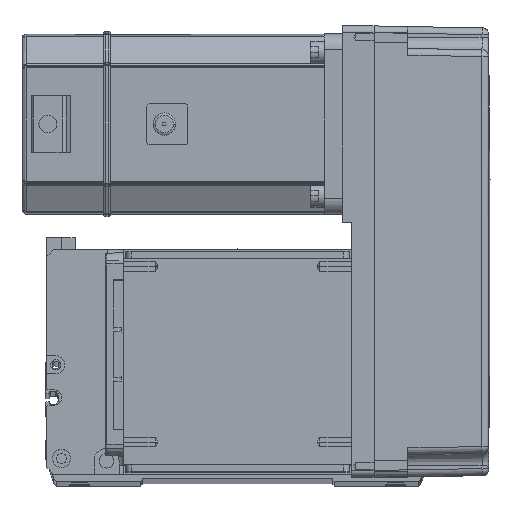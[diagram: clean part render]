
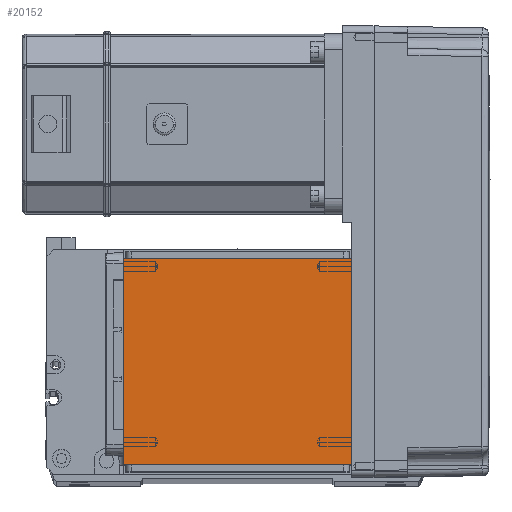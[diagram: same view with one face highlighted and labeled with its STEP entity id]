
A CAD part, top view. The second image highlights one B-rep face of the part: STEP entity #20152.
In plain terms, the highlighted planar face has unit normal (0, 0, 1).
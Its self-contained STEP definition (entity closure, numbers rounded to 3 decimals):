
#2853 = FACE_OUTER_BOUND ( 'NONE', #10176, .T. ) ;
#4392 = CARTESIAN_POINT ( 'NONE',  ( -50.5, 20., 115. ) ) ;
#4782 = CARTESIAN_POINT ( 'NONE',  ( 50.5, 122., 115. ) ) ;
#5210 = VECTOR ( 'NONE', #36628, 1000. ) ;
#5652 = LINE ( 'NONE', #24479, #27054 ) ;
#8078 = ORIENTED_EDGE ( 'NONE', *, *, #22550, .T. ) ;
#10176 = EDGE_LOOP ( 'NONE', ( #53035, #8078, #53452, #16691 ) ) ;
#13921 = VERTEX_POINT ( 'NONE', #35036 ) ;
#16543 = PLANE ( 'NONE',  #34428 ) ;
#16691 = ORIENTED_EDGE ( 'NONE', *, *, #51900, .T. ) ;
#17219 = VECTOR ( 'NONE', #41638, 1000. ) ;
#20081 = LINE ( 'NONE', #55241, #17219 ) ;
#20106 = VERTEX_POINT ( 'NONE', #56235 ) ;
#20152 = ADVANCED_FACE ( 'NONE', ( #2853 ), #16543, .T. ) ;
#21135 = CARTESIAN_POINT ( 'NONE',  ( 0., 0., 115. ) ) ;
#22550 = EDGE_CURVE ( 'NONE', #20106, #50198, #20081, .T. ) ;
#24479 = CARTESIAN_POINT ( 'NONE',  ( -70.004, 20., 115. ) ) ;
#25053 = DIRECTION ( 'NONE',  ( -1., 0., 0. ) ) ;
#25642 = EDGE_CURVE ( 'NONE', #20106, #13921, #53163, .T. ) ;
#27054 = VECTOR ( 'NONE', #25053, 1000. ) ;
#34428 = AXIS2_PLACEMENT_3D ( 'NONE', #21135, #44006, #39237 ) ;
#35036 = CARTESIAN_POINT ( 'NONE',  ( 50.5, 111.5, 115. ) ) ;
#36628 = DIRECTION ( 'NONE',  ( 0., 1., 0. ) ) ;
#37092 = DIRECTION ( 'NONE',  ( 1., 0., 0. ) ) ;
#39237 = DIRECTION ( 'NONE',  ( 1., 0., 0. ) ) ;
#41638 = DIRECTION ( 'NONE',  ( 0., -1., 0. ) ) ;
#44006 = DIRECTION ( 'NONE',  ( 0., 0., 1. ) ) ;
#46071 = VECTOR ( 'NONE', #37092, 1000. ) ;
#46371 = CARTESIAN_POINT ( 'NONE',  ( -70.004, 111.5, 115. ) ) ;
#46744 = EDGE_CURVE ( 'NONE', #47375, #50198, #5652, .T. ) ;
#47375 = VERTEX_POINT ( 'NONE', #49328 ) ;
#48552 = LINE ( 'NONE', #4782, #5210 ) ;
#49328 = CARTESIAN_POINT ( 'NONE',  ( 50.5, 20., 115. ) ) ;
#50198 = VERTEX_POINT ( 'NONE', #4392 ) ;
#51900 = EDGE_CURVE ( 'NONE', #47375, #13921, #48552, .T. ) ;
#53035 = ORIENTED_EDGE ( 'NONE', *, *, #25642, .F. ) ;
#53163 = LINE ( 'NONE', #46371, #46071 ) ;
#53452 = ORIENTED_EDGE ( 'NONE', *, *, #46744, .F. ) ;
#55241 = CARTESIAN_POINT ( 'NONE',  ( -50.5, 122., 115. ) ) ;
#56235 = CARTESIAN_POINT ( 'NONE',  ( -50.5, 111.5, 115. ) ) ;
